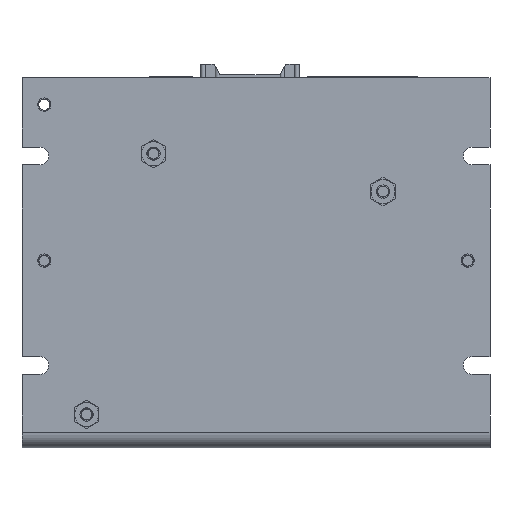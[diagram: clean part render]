
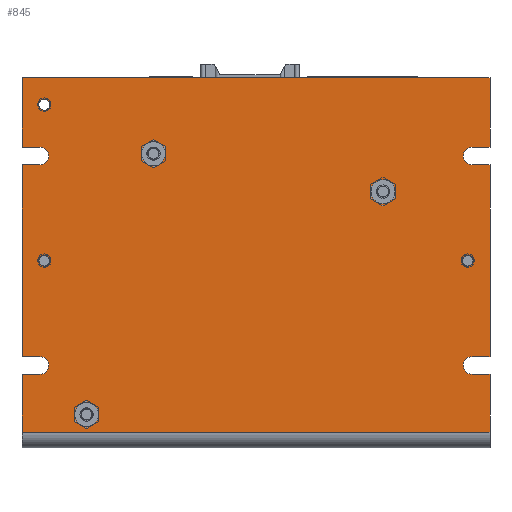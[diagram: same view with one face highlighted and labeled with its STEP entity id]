
A CAD part, front view. The second image highlights one B-rep face of the part: STEP entity #845.
In plain terms, the highlighted planar face has unit normal (0, -1, 0).
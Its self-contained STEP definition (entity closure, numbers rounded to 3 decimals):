
#2=DIRECTION('',(-1.,0.,0.));
#3=VECTOR('',#2,4.);
#4=CARTESIAN_POINT('',(52.5,0.,-19.5));
#5=LINE('',#4,#3);
#6=DIRECTION('',(0.,0.,1.));
#7=VECTOR('',#6,43.);
#8=CARTESIAN_POINT('',(52.5,0.,-62.5));
#9=LINE('',#8,#7);
#10=DIRECTION('',(-1.,0.,0.));
#11=VECTOR('',#10,4.);
#12=CARTESIAN_POINT('',(52.5,0.,-62.5));
#13=LINE('',#12,#11);
#14=CARTESIAN_POINT('',(48.5,0.,-64.5));
#15=DIRECTION('',(0.,-1.,0.));
#16=DIRECTION('',(0.,0.,1.));
#17=AXIS2_PLACEMENT_3D('',#14,#15,#16);
#19=DIRECTION('',(-1.,0.,0.));
#20=VECTOR('',#19,4.);
#21=CARTESIAN_POINT('',(52.5,0.,-66.5));
#22=LINE('',#21,#20);
#23=DIRECTION('',(0.,0.,1.));
#24=VECTOR('',#23,13.);
#25=CARTESIAN_POINT('',(52.5,0.,-79.5));
#26=LINE('',#25,#24);
#27=DIRECTION('',(0.,0.,-1.));
#28=VECTOR('',#27,13.);
#29=CARTESIAN_POINT('',(-52.5,0.,-66.5));
#30=LINE('',#29,#28);
#31=DIRECTION('',(1.,0.,0.));
#32=VECTOR('',#31,4.);
#33=CARTESIAN_POINT('',(-52.5,0.,-66.5));
#34=LINE('',#33,#32);
#35=CARTESIAN_POINT('',(-48.5,0.,-64.5));
#36=DIRECTION('',(0.,-1.,0.));
#37=DIRECTION('',(0.,0.,-1.));
#38=AXIS2_PLACEMENT_3D('',#35,#36,#37);
#40=DIRECTION('',(1.,0.,0.));
#41=VECTOR('',#40,4.);
#42=CARTESIAN_POINT('',(-52.5,0.,-62.5));
#43=LINE('',#42,#41);
#44=DIRECTION('',(0.,0.,-1.));
#45=VECTOR('',#44,43.);
#46=CARTESIAN_POINT('',(-52.5,0.,-19.5));
#47=LINE('',#46,#45);
#48=DIRECTION('',(1.,0.,0.));
#49=VECTOR('',#48,4.);
#50=CARTESIAN_POINT('',(-52.5,0.,-19.5));
#51=LINE('',#50,#49);
#52=CARTESIAN_POINT('',(-48.5,0.,-17.5));
#53=DIRECTION('',(0.,-1.,0.));
#54=DIRECTION('',(0.,0.,-1.));
#55=AXIS2_PLACEMENT_3D('',#52,#53,#54);
#57=DIRECTION('',(1.,0.,0.));
#58=VECTOR('',#57,4.);
#59=CARTESIAN_POINT('',(-52.5,0.,-15.5));
#60=LINE('',#59,#58);
#61=DIRECTION('',(0.,0.,-1.));
#62=VECTOR('',#61,15.5);
#63=CARTESIAN_POINT('',(-52.5,0.,0.));
#64=LINE('',#63,#62);
#65=DIRECTION('',(-1.,0.,0.));
#66=VECTOR('',#65,105.);
#67=CARTESIAN_POINT('',(52.5,0.,0.));
#68=LINE('',#67,#66);
#69=DIRECTION('',(0.,0.,1.));
#70=VECTOR('',#69,15.5);
#71=CARTESIAN_POINT('',(52.5,0.,-15.5));
#72=LINE('',#71,#70);
#73=DIRECTION('',(-1.,0.,0.));
#74=VECTOR('',#73,4.);
#75=CARTESIAN_POINT('',(52.5,0.,-15.5));
#76=LINE('',#75,#74);
#77=CARTESIAN_POINT('',(48.5,0.,-17.5));
#78=DIRECTION('',(0.,-1.,0.));
#79=DIRECTION('',(0.,0.,1.));
#80=AXIS2_PLACEMENT_3D('',#77,#78,#79);
#82=CARTESIAN_POINT('',(28.5,0.,-25.5));
#83=DIRECTION('',(0.,1.,0.));
#84=DIRECTION('',(-1.,0.,0.));
#85=AXIS2_PLACEMENT_3D('',#82,#83,#84);
#87=CARTESIAN_POINT('',(28.5,0.,-25.5));
#88=DIRECTION('',(0.,1.,0.));
#89=DIRECTION('',(1.,0.,0.));
#90=AXIS2_PLACEMENT_3D('',#87,#88,#89);
#92=CARTESIAN_POINT('',(-23.,0.,-17.));
#93=DIRECTION('',(0.,1.,0.));
#94=DIRECTION('',(-1.,0.,0.));
#95=AXIS2_PLACEMENT_3D('',#92,#93,#94);
#97=CARTESIAN_POINT('',(-23.,0.,-17.));
#98=DIRECTION('',(0.,1.,0.));
#99=DIRECTION('',(1.,0.,0.));
#100=AXIS2_PLACEMENT_3D('',#97,#98,#99);
#102=CARTESIAN_POINT('',(-38.,0.,-75.5));
#103=DIRECTION('',(0.,1.,0.));
#104=DIRECTION('',(-1.,0.,0.));
#105=AXIS2_PLACEMENT_3D('',#102,#103,#104);
#107=CARTESIAN_POINT('',(-38.,0.,-75.5));
#108=DIRECTION('',(0.,1.,0.));
#109=DIRECTION('',(1.,0.,0.));
#110=AXIS2_PLACEMENT_3D('',#107,#108,#109);
#112=CARTESIAN_POINT('',(-47.5,0.,-41.));
#113=DIRECTION('',(0.,-1.,0.));
#114=DIRECTION('',(-1.,0.,0.));
#115=AXIS2_PLACEMENT_3D('',#112,#113,#114);
#117=CARTESIAN_POINT('',(-47.5,0.,-41.));
#118=DIRECTION('',(0.,-1.,0.));
#119=DIRECTION('',(1.,0.,0.));
#120=AXIS2_PLACEMENT_3D('',#117,#118,#119);
#122=CARTESIAN_POINT('',(47.5,0.,-41.));
#123=DIRECTION('',(0.,-1.,0.));
#124=DIRECTION('',(-1.,0.,0.));
#125=AXIS2_PLACEMENT_3D('',#122,#123,#124);
#127=CARTESIAN_POINT('',(47.5,0.,-41.));
#128=DIRECTION('',(0.,-1.,0.));
#129=DIRECTION('',(1.,0.,0.));
#130=AXIS2_PLACEMENT_3D('',#127,#128,#129);
#132=CARTESIAN_POINT('',(-47.5,0.,-6.));
#133=DIRECTION('',(0.,-1.,0.));
#134=DIRECTION('',(-1.,0.,0.));
#135=AXIS2_PLACEMENT_3D('',#132,#133,#134);
#137=CARTESIAN_POINT('',(-47.5,0.,-6.));
#138=DIRECTION('',(0.,-1.,0.));
#139=DIRECTION('',(1.,0.,0.));
#140=AXIS2_PLACEMENT_3D('',#137,#138,#139);
#211=DIRECTION('',(-1.,0.,0.));
#212=VECTOR('',#211,105.);
#213=CARTESIAN_POINT('',(52.5,0.,-79.5));
#214=LINE('',#213,#212);
#586=CARTESIAN_POINT('',(52.5,0.,0.));
#587=CARTESIAN_POINT('',(-52.5,0.,0.));
#588=VERTEX_POINT('',#586);
#589=VERTEX_POINT('',#587);
#602=CARTESIAN_POINT('',(-52.5,0.,-79.5));
#603=VERTEX_POINT('',#602);
#604=CARTESIAN_POINT('',(52.5,0.,-79.5));
#605=VERTEX_POINT('',#604);
#618=CARTESIAN_POINT('',(52.5,0.,-19.5));
#619=CARTESIAN_POINT('',(48.5,0.,-19.5));
#620=VERTEX_POINT('',#618);
#621=VERTEX_POINT('',#619);
#622=CARTESIAN_POINT('',(48.5,0.,-15.5));
#623=VERTEX_POINT('',#622);
#624=CARTESIAN_POINT('',(52.5,0.,-15.5));
#625=VERTEX_POINT('',#624);
#626=CARTESIAN_POINT('',(52.5,0.,-66.5));
#627=CARTESIAN_POINT('',(48.5,0.,-66.5));
#628=VERTEX_POINT('',#626);
#629=VERTEX_POINT('',#627);
#630=CARTESIAN_POINT('',(48.5,0.,-62.5));
#631=VERTEX_POINT('',#630);
#632=CARTESIAN_POINT('',(52.5,0.,-62.5));
#633=VERTEX_POINT('',#632);
#634=CARTESIAN_POINT('',(-52.5,0.,-62.5));
#635=CARTESIAN_POINT('',(-48.5,0.,-62.5));
#636=VERTEX_POINT('',#634);
#637=VERTEX_POINT('',#635);
#638=CARTESIAN_POINT('',(-48.5,0.,-66.5));
#639=VERTEX_POINT('',#638);
#640=CARTESIAN_POINT('',(-52.5,0.,-66.5));
#641=VERTEX_POINT('',#640);
#642=CARTESIAN_POINT('',(-52.5,0.,-15.5));
#643=CARTESIAN_POINT('',(-48.5,0.,-15.5));
#644=VERTEX_POINT('',#642);
#645=VERTEX_POINT('',#643);
#646=CARTESIAN_POINT('',(-48.5,0.,-19.5));
#647=VERTEX_POINT('',#646);
#648=CARTESIAN_POINT('',(-52.5,0.,-19.5));
#649=VERTEX_POINT('',#648);
#714=CARTESIAN_POINT('',(25.8,0.,-25.5));
#715=CARTESIAN_POINT('',(31.2,0.,-25.5));
#716=VERTEX_POINT('',#714);
#717=VERTEX_POINT('',#715);
#722=CARTESIAN_POINT('',(-48.75,0.,-41.));
#723=CARTESIAN_POINT('',(-46.25,0.,-41.));
#724=VERTEX_POINT('',#722);
#725=VERTEX_POINT('',#723);
#731=CARTESIAN_POINT('',(46.25,0.,-41.));
#733=VERTEX_POINT('',#731);
#735=CARTESIAN_POINT('',(48.75,0.,-41.));
#737=VERTEX_POINT('',#735);
#738=CARTESIAN_POINT('',(-48.75,0.,-6.));
#739=CARTESIAN_POINT('',(-46.25,0.,-6.));
#740=VERTEX_POINT('',#738);
#741=VERTEX_POINT('',#739);
#746=CARTESIAN_POINT('',(-25.7,0.,-17.));
#747=CARTESIAN_POINT('',(-20.3,0.,-17.));
#748=VERTEX_POINT('',#746);
#749=VERTEX_POINT('',#747);
#750=CARTESIAN_POINT('',(-40.7,0.,-75.5));
#751=CARTESIAN_POINT('',(-35.3,0.,-75.5));
#752=VERTEX_POINT('',#750);
#753=VERTEX_POINT('',#751);
#762=CARTESIAN_POINT('',(0.,0.,0.));
#763=DIRECTION('',(0.,-1.,0.));
#764=DIRECTION('',(1.,0.,0.));
#765=AXIS2_PLACEMENT_3D('',#762,#763,#764);
#766=PLANE('',#765);
#768=ORIENTED_EDGE('',*,*,#767,.F.);
#770=ORIENTED_EDGE('',*,*,#769,.F.);
#772=ORIENTED_EDGE('',*,*,#771,.T.);
#774=ORIENTED_EDGE('',*,*,#773,.T.);
#776=ORIENTED_EDGE('',*,*,#775,.F.);
#778=ORIENTED_EDGE('',*,*,#777,.F.);
#780=ORIENTED_EDGE('',*,*,#779,.T.);
#782=ORIENTED_EDGE('',*,*,#781,.F.);
#784=ORIENTED_EDGE('',*,*,#783,.T.);
#786=ORIENTED_EDGE('',*,*,#785,.T.);
#788=ORIENTED_EDGE('',*,*,#787,.F.);
#790=ORIENTED_EDGE('',*,*,#789,.F.);
#792=ORIENTED_EDGE('',*,*,#791,.T.);
#794=ORIENTED_EDGE('',*,*,#793,.T.);
#796=ORIENTED_EDGE('',*,*,#795,.F.);
#798=ORIENTED_EDGE('',*,*,#797,.F.);
#800=ORIENTED_EDGE('',*,*,#799,.F.);
#802=ORIENTED_EDGE('',*,*,#801,.F.);
#804=ORIENTED_EDGE('',*,*,#803,.T.);
#806=ORIENTED_EDGE('',*,*,#805,.T.);
#807=EDGE_LOOP('',(#768,#770,#772,#774,#776,#778,#780,#782,#784,#786,#788,#790,
#792,#794,#796,#798,#800,#802,#804,#806));
#808=FACE_OUTER_BOUND('',#807,.F.);
#810=ORIENTED_EDGE('',*,*,#809,.F.);
#812=ORIENTED_EDGE('',*,*,#811,.F.);
#813=EDGE_LOOP('',(#810,#812));
#814=FACE_BOUND('',#813,.F.);
#816=ORIENTED_EDGE('',*,*,#815,.F.);
#818=ORIENTED_EDGE('',*,*,#817,.F.);
#819=EDGE_LOOP('',(#816,#818));
#820=FACE_BOUND('',#819,.F.);
#822=ORIENTED_EDGE('',*,*,#821,.F.);
#824=ORIENTED_EDGE('',*,*,#823,.F.);
#825=EDGE_LOOP('',(#822,#824));
#826=FACE_BOUND('',#825,.F.);
#828=ORIENTED_EDGE('',*,*,#827,.T.);
#830=ORIENTED_EDGE('',*,*,#829,.T.);
#831=EDGE_LOOP('',(#828,#830));
#832=FACE_BOUND('',#831,.F.);
#834=ORIENTED_EDGE('',*,*,#833,.T.);
#836=ORIENTED_EDGE('',*,*,#835,.T.);
#837=EDGE_LOOP('',(#834,#836));
#838=FACE_BOUND('',#837,.F.);
#840=ORIENTED_EDGE('',*,*,#839,.T.);
#842=ORIENTED_EDGE('',*,*,#841,.T.);
#843=EDGE_LOOP('',(#840,#842));
#844=FACE_BOUND('',#843,.F.);
#845=ADVANCED_FACE('',(#808,#814,#820,#826,#832,#838,#844),#766,.T.);
#18=CIRCLE('',#17,2.);
#39=CIRCLE('',#38,2.);
#56=CIRCLE('',#55,2.);
#81=CIRCLE('',#80,2.);
#86=CIRCLE('',#85,2.7);
#91=CIRCLE('',#90,2.7);
#96=CIRCLE('',#95,2.7);
#101=CIRCLE('',#100,2.7);
#106=CIRCLE('',#105,2.7);
#111=CIRCLE('',#110,2.7);
#116=CIRCLE('',#115,1.25);
#121=CIRCLE('',#120,1.25);
#126=CIRCLE('',#125,1.25);
#131=CIRCLE('',#130,1.25);
#136=CIRCLE('',#135,1.25);
#141=CIRCLE('',#140,1.25);
#767=EDGE_CURVE('',#620,#621,#5,.T.);
#769=EDGE_CURVE('',#633,#620,#9,.T.);
#771=EDGE_CURVE('',#633,#631,#13,.T.);
#773=EDGE_CURVE('',#631,#629,#18,.T.);
#775=EDGE_CURVE('',#628,#629,#22,.T.);
#777=EDGE_CURVE('',#605,#628,#26,.T.);
#779=EDGE_CURVE('',#605,#603,#214,.T.);
#781=EDGE_CURVE('',#641,#603,#30,.T.);
#783=EDGE_CURVE('',#641,#639,#34,.T.);
#785=EDGE_CURVE('',#639,#637,#39,.T.);
#787=EDGE_CURVE('',#636,#637,#43,.T.);
#789=EDGE_CURVE('',#649,#636,#47,.T.);
#791=EDGE_CURVE('',#649,#647,#51,.T.);
#793=EDGE_CURVE('',#647,#645,#56,.T.);
#795=EDGE_CURVE('',#644,#645,#60,.T.);
#797=EDGE_CURVE('',#589,#644,#64,.T.);
#799=EDGE_CURVE('',#588,#589,#68,.T.);
#801=EDGE_CURVE('',#625,#588,#72,.T.);
#803=EDGE_CURVE('',#625,#623,#76,.T.);
#805=EDGE_CURVE('',#623,#621,#81,.T.);
#809=EDGE_CURVE('',#716,#717,#86,.T.);
#811=EDGE_CURVE('',#717,#716,#91,.T.);
#815=EDGE_CURVE('',#748,#749,#96,.T.);
#817=EDGE_CURVE('',#749,#748,#101,.T.);
#821=EDGE_CURVE('',#752,#753,#106,.T.);
#823=EDGE_CURVE('',#753,#752,#111,.T.);
#827=EDGE_CURVE('',#724,#725,#116,.T.);
#829=EDGE_CURVE('',#725,#724,#121,.T.);
#833=EDGE_CURVE('',#733,#737,#126,.T.);
#835=EDGE_CURVE('',#737,#733,#131,.T.);
#839=EDGE_CURVE('',#740,#741,#136,.T.);
#841=EDGE_CURVE('',#741,#740,#141,.T.);
